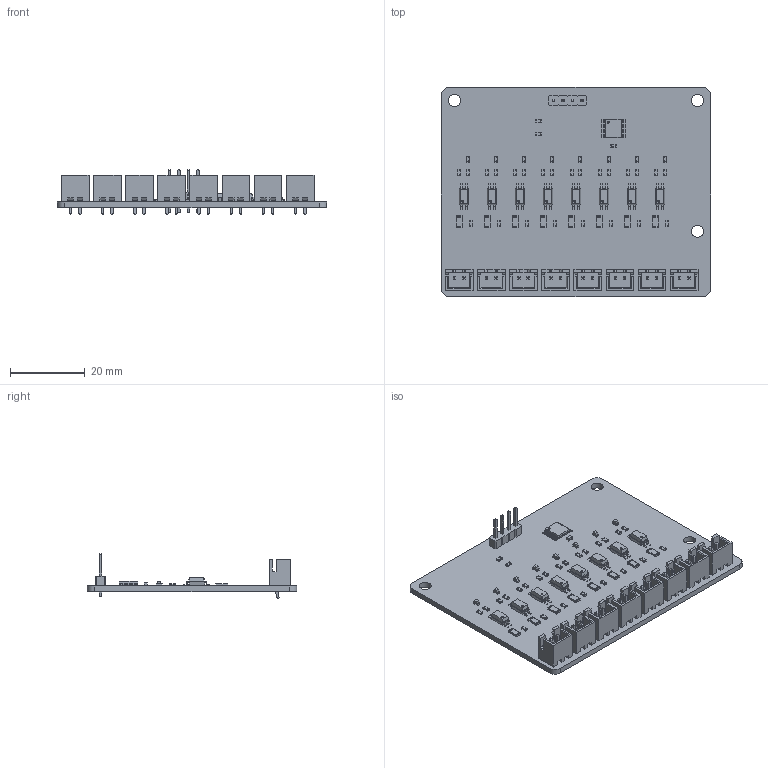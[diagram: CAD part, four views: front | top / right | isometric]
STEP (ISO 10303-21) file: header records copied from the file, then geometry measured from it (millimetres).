
FILE_DESCRIPTION(('KiCad electronic assembly'),'2;1');
FILE_NAME('AP_Input.step','2026-10-06T22:20:50',('Pcbnew'),('Kicad'), 'Open CASCADE STEP processor 7.6','KiCad to STEP converter','Unknown' );
FILE_SCHEMA(('AUTOMOTIVE_DESIGN { 1 0 10303 214 1 1 1 1 }'));
Length unit declared in the file: millimetre
Products named in the file (10): AP_Input 1; R_0603_1608Metric; LED_0603_1608Metric; R_1206_3216Metric; JST_XH_B2B-XH-A_1x02_P2.50mm_Vertical; SOP-4_4.4x2.6mm_P1.27mm; TSSOP-16_4.4x5mm_P0.65mm; PinHeader_1x04_P2.54mm_Vertical; C_0603_1608Metric; AP_Input_PCB
Assembly tree (62 placements, depth 2):
  AP_Input 1
    R_0603_1608Metric  x26
    LED_0603_1608Metric  x8
    R_1206_3216Metric  x8
    JST_XH_B2B-XH-A_1x02_P2.50mm_Vertical  x8
    SOP-4_4.4x2.6mm_P1.27mm  x8
    TSSOP-16_4.4x5mm_P0.65mm
    PinHeader_1x04_P2.54mm_Vertical
    C_0603_1608Metric
    AP_Input_PCB
Bounding box: 72 x 56 x 11.94 mm (x, y, z)
Volume: 7573.3 mm3; surface area: 12700.6 mm2
Topology: 62 solids, 62 shells, 3185 faces, 8298 edges, 5296 vertices
Faces by surface type: plane 2325, cylinder 608, bspline 252
Full cylindrical faces by diameter (mm): 0.5 x9, 1 x20, 3.2 x3
Entity records: 21928 total; most frequent: CARTESIAN_POINT 4004, ORIENTED_EDGE 3690, DIRECTION 3525, EDGE_CURVE 1845, LINE 1499, VECTOR 1499, VERTEX_POINT 1172, AXIS2_PLACEMENT_3D 1013
